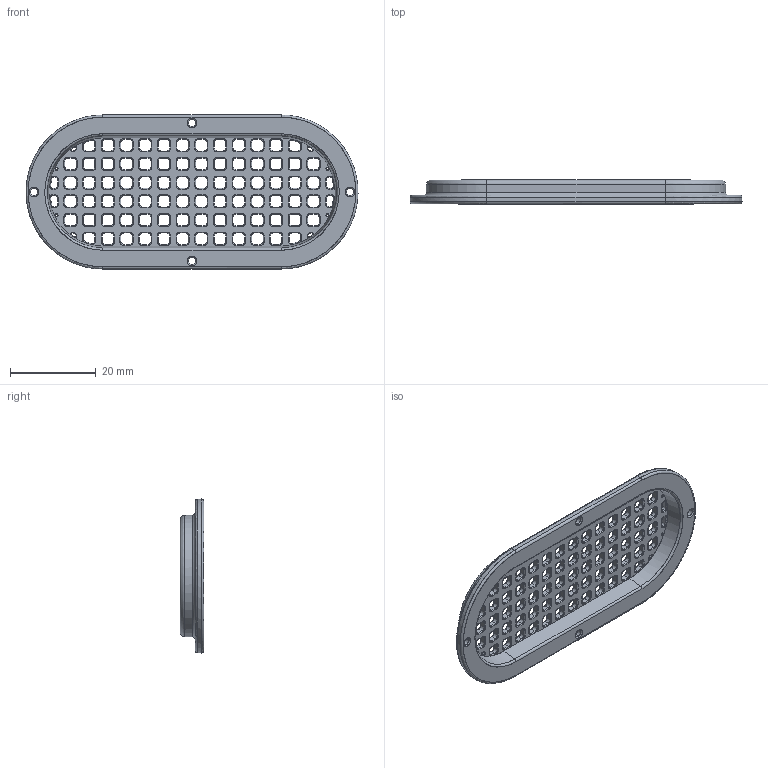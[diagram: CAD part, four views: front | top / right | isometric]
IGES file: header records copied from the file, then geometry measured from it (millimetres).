
Start section: Speaker 2 inch..SLDPRT - PrototypeComponentType Speaker 2 inch..SLDPRT - PrototypeComponentType Speaker 2 inch..SLDPRT - PrototypeComponentType Speaker 2 inch..SLDPRT - PrototypeComponentType 10 rocker-switch-KCD1..SLDPRT - PrototypeComponentType 10 rocker-switch-KCD1..SLDPRT - PrototypeComponentType 10 rocker-switch-KCD1..SLDPRT - PrototypeComponentType 10 rocker-switch-KCD1..SLDPRT - PrototypeCo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
Global section: file name: C:\Users\Victor\Desktop\RejillaBack.igs; native system: Rhinoceros ( Feb 27 2019 ); preprocessor: Trout Lake IGES 012 Feb 27 2019; date: 240310.230809; units: millimetre
Bounding box: 77.26 x 5.54 x 35.84 mm (x, y, z)
Surface area: 6303.4 mm2 (no closed solid volume)
Topology: 0 solids, 0 shells, 2220 faces, 10428 edges, 10428 vertices
Faces by surface type: bspline 2220
